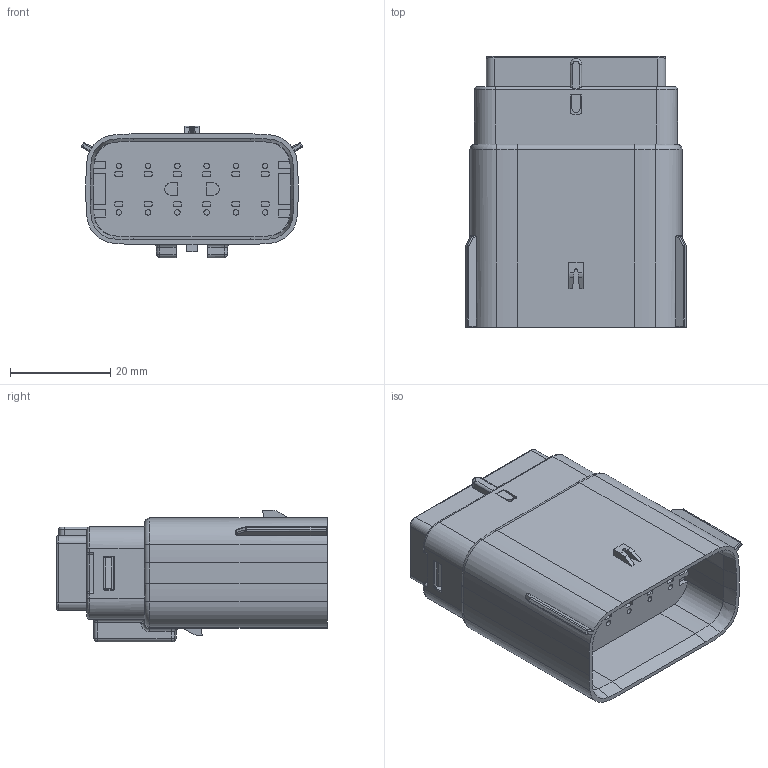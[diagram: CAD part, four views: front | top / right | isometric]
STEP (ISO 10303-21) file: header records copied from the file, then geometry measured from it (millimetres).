
FILE_DESCRIPTION(/* description */ (''),/* implementation_level */ '2;1');
FILE_NAME(/* name */ '194190017wbm000_02_214.stp',/* time_stamp */ '2021-09-24T11:49:30+05:00',/* author */ (''),/* organization */ (''),/* preprocessor_version */ 'ST-DEVELOPER v16.7',/* originating_system */ 'SIEMENS PLM Software NX 1919',/* authorisation */ '');
FILE_SCHEMA (('AUTOMOTIVE_DESIGN { 1 0 10303 214 3 1 1 1 }'));
Length unit declared in the file: millimetre
Products named in the file (1): 194190017wbm000_02
Bounding box: 44.05 x 54.03 x 26.22 mm (x, y, z)
Volume: 31998.2 mm3; surface area: 12680.8 mm2
Topology: 1 solids, 1 shells, 793 faces, 2051 edges, 1293 vertices
Faces by surface type: plane 469, cylinder 237, torus 33, cone 28, sphere 18, bspline 8
Full cylindrical faces by diameter (mm): 1.1 x12
Entity records: 24707 total; most frequent: CARTESIAN_POINT 5299, ORIENTED_EDGE 4042, DIRECTION 4010, EDGE_CURVE 2021, LINE 1384, VECTOR 1384, AXIS2_PLACEMENT_3D 1313, VERTEX_POINT 1293
